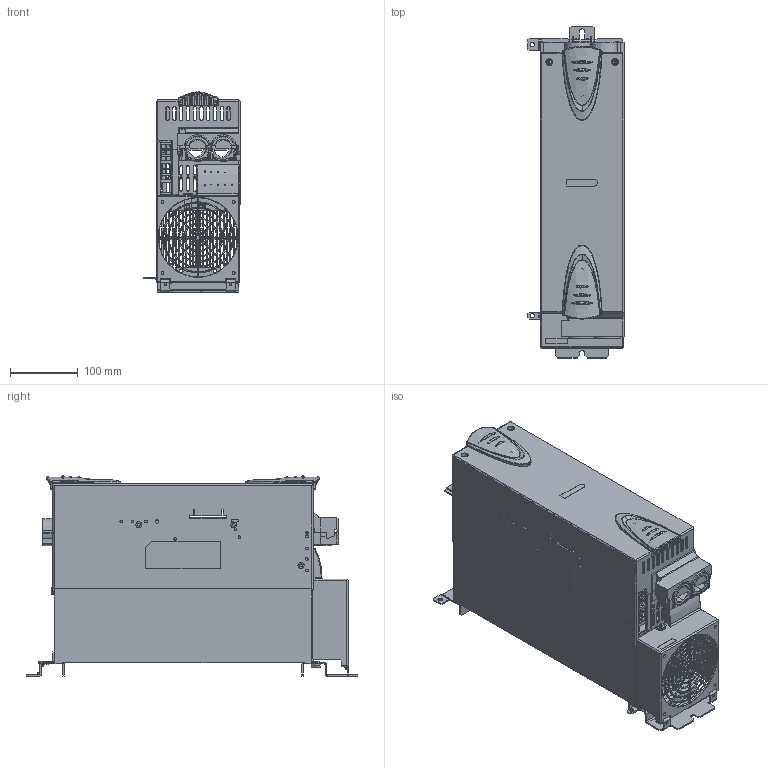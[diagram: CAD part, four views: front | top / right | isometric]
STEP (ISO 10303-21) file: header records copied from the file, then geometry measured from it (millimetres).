
FILE_DESCRIPTION((''),'2;1');
FILE_NAME('E-POWER_630A_IGES','2012-01-23T',('chrisloe'),(''),'PRO/ENGINEER BY PARAMETRIC TECHNOLOGY CORPORATION, 2010180','PRO/ENGINEER BY PARAMETRIC TECHNOLOGY CORPORATION, 2010180','');
FILE_SCHEMA(('CONFIG_CONTROL_DESIGN'));
Products named in the file (1): E-POWER_630A_IGES
Bounding box: 142 x 489.5 x 295.17 mm (x, y, z)
Volume: 3381077.6 mm3; surface area: 2621477.6 mm2
Topology: 1 solids, 10 shells, 5170 faces, 14392 edges, 9140 vertices
Faces by surface type: plane 3459, cylinder 835, bspline 298, cone 285, torus 221, sphere 44, extrusion 28
Entity records: 186554 total; most frequent: CARTESIAN_POINT 56367, ORIENTED_EDGE 28732, DIRECTION 24460, EDGE_CURVE 14366, VECTOR 10288, LINE 10260, VERTEX_POINT 9139, AXIS2_PLACEMENT_3D 7086
